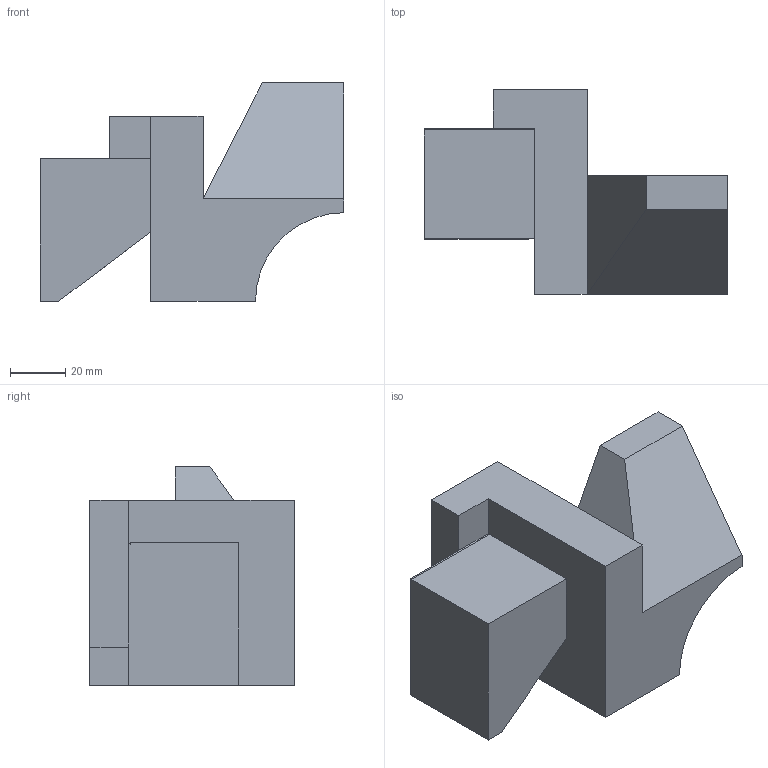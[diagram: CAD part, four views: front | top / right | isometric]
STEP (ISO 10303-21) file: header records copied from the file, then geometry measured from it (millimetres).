
FILE_DESCRIPTION(/* description */ (''),/* implementation_level */ '2;1');
FILE_NAME(/* name */ '740806R1008_.step',/* time_stamp */ '2024-08-09T11:18:59+09:00',/* author */ (''),/* organization */ (''),/* preprocessor_version */ 'ST-DEVELOPER v20',/* originating_system */ 'Autodesk Translation Framework v13.14.0.145',/* authorisation */ '');
FILE_SCHEMA (('AUTOMOTIVE_DESIGN { 1 0 10303 214 3 1 1 }'));
Length unit declared in the file: millimetre
Products named in the file (1): 740806R1008
Bounding box: 110 x 74 x 79 mm (x, y, z)
Volume: 265789.5 mm3; surface area: 34636.4 mm2
Topology: 1 solids, 1 shells, 22 faces, 58 edges, 38 vertices
Faces by surface type: plane 21, cylinder 1
Entity records: 701 total; most frequent: CARTESIAN_POINT 119, ORIENTED_EDGE 116, DIRECTION 106, EDGE_CURVE 58, LINE 56, VECTOR 56, VERTEX_POINT 38, AXIS2_PLACEMENT_3D 25
